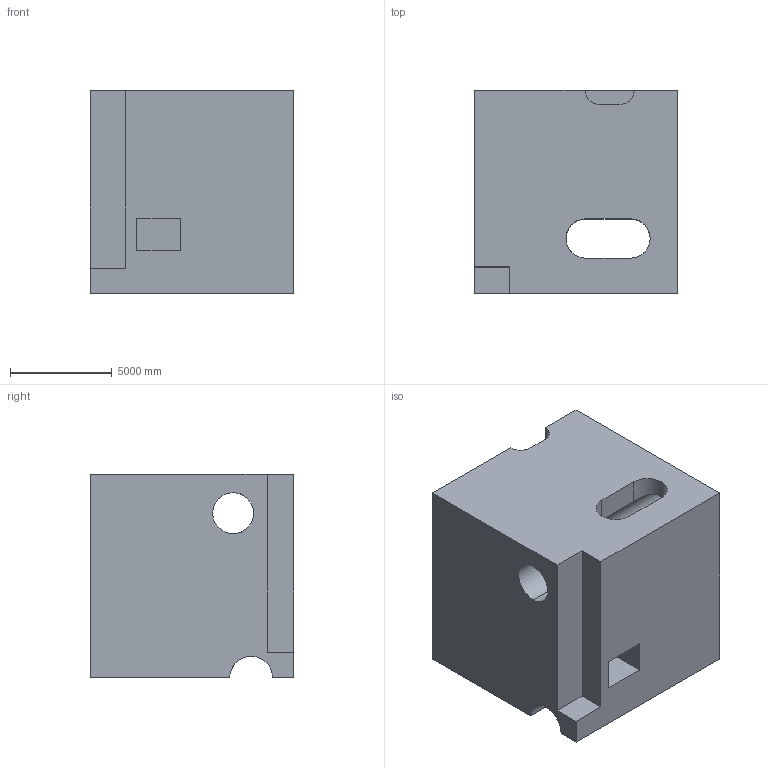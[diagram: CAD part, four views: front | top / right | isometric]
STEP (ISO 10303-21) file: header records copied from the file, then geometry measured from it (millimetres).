
FILE_DESCRIPTION (( 'STEP AP203' ), '1' );
FILE_NAME ('1648.STEP', '2022-08-19T11:20:51', ( 'user' ), ( '' ), 'SwSTEP 2.0', 'SolidWorks 2021', '' );
FILE_SCHEMA (( 'CONFIG_CONTROL_DESIGN' ));
Length unit declared in the file: centimetre
Products named in the file (1): 1648
Bounding box: 10000 x 10000 x 10000 mm (x, y, z)
Volume: 839024930477.3 mm3; surface area: 773738306.6 mm2
Topology: 1 solids, 1 shells, 36 faces, 108 edges, 72 vertices
Faces by surface type: plane 22, cylinder 14
Entity records: 2096 total; most frequent: CARTESIAN_POINT 1037, ORIENTED_EDGE 216, DIRECTION 190, EDGE_CURVE 108, LINE 74, VECTOR 74, VERTEX_POINT 72, AXIS2_PLACEMENT_3D 58
